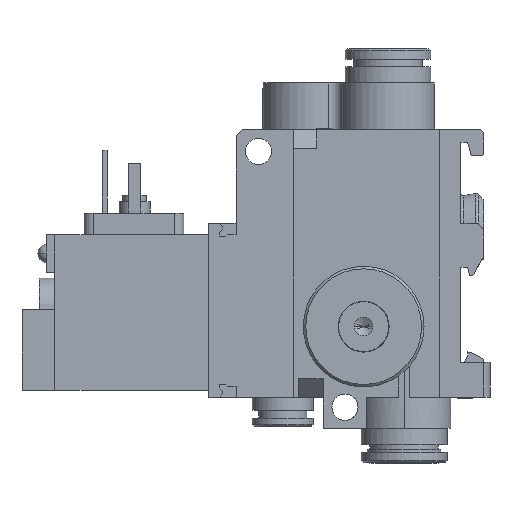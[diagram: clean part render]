
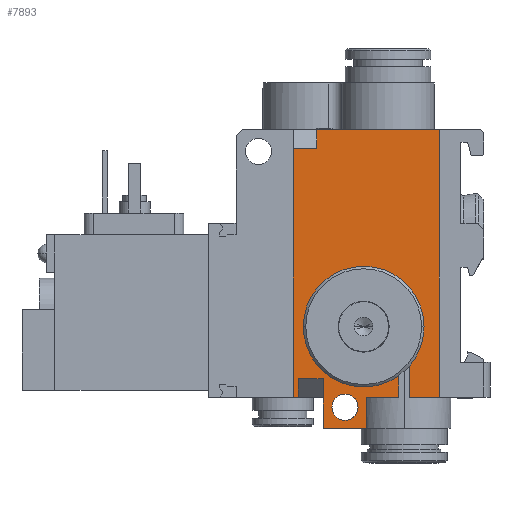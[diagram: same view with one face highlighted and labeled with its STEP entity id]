
A CAD part, left-side view. The second image highlights one B-rep face of the part: STEP entity #7893.
In plain terms, the highlighted planar face has unit normal (-1, 0, 0).
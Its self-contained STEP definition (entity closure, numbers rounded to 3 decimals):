
#661=DIRECTION('',(0.,-1.,0.));
#662=VECTOR('',#661,6.385);
#663=CARTESIAN_POINT('',(-9.946,-7.365,-21.5));
#664=LINE('',#663,#662);
#766=DIRECTION('',(0.,-1.,0.));
#767=VECTOR('',#766,5.135);
#768=CARTESIAN_POINT('',(-9.946,-0.5,-21.5));
#769=LINE('',#768,#767);
#901=DIRECTION('',(0.,-1.,0.));
#902=VECTOR('',#901,2.45);
#903=CARTESIAN_POINT('',(-9.946,12.95,-21.5));
#904=LINE('',#903,#902);
#933=CARTESIAN_POINT('',(-9.946,3.,-23.1));
#934=DIRECTION('',(1.,0.,0.));
#935=DIRECTION('',(0.,0.,-1.));
#936=AXIS2_PLACEMENT_3D('',#933,#934,#935);
#938=CARTESIAN_POINT('',(-9.946,3.,-23.1));
#939=DIRECTION('',(1.,0.,0.));
#940=DIRECTION('',(0.,0.,1.));
#941=AXIS2_PLACEMENT_3D('',#938,#939,#940);
#943=DIRECTION('',(0.,0.,-1.));
#944=VECTOR('',#943,3.);
#945=CARTESIAN_POINT('',(-9.946,7.5,21.5));
#946=LINE('',#945,#944);
#947=DIRECTION('',(0.,0.,-1.));
#948=VECTOR('',#947,5.);
#949=CARTESIAN_POINT('',(-9.946,-7.365,-16.5));
#950=LINE('',#949,#948);
#951=DIRECTION('',(0.,1.,0.));
#952=VECTOR('',#951,0.032);
#953=CARTESIAN_POINT('',(-9.946,-7.365,-16.5));
#954=LINE('',#953,#952);
#955=CARTESIAN_POINT('',(-9.946,0.,-10.15));
#956=DIRECTION('',(1.,0.,0.));
#957=DIRECTION('',(0.,-1.,0.));
#958=AXIS2_PLACEMENT_3D('',#955,#956,#957);
#960=CARTESIAN_POINT('',(-9.946,0.,-10.15));
#961=DIRECTION('',(1.,0.,0.));
#962=DIRECTION('',(0.,1.,0.));
#963=AXIS2_PLACEMENT_3D('',#960,#961,#962);
#965=CARTESIAN_POINT('',(-9.946,0.,-10.15));
#966=DIRECTION('',(1.,0.,0.));
#967=DIRECTION('',(0.,-0.581,-0.814));
#968=AXIS2_PLACEMENT_3D('',#965,#966,#967);
#970=DIRECTION('',(0.,0.,-1.));
#971=VECTOR('',#970,3.455);
#972=CARTESIAN_POINT('',(-9.946,-5.635,
-18.045));
#973=LINE('',#972,#971);
#974=DIRECTION('',(0.,0.,-1.));
#975=VECTOR('',#974,5.);
#976=CARTESIAN_POINT('',(-9.946,-0.5,-21.5));
#977=LINE('',#976,#975);
#978=DIRECTION('',(0.,1.,0.));
#979=VECTOR('',#978,4.);
#980=CARTESIAN_POINT('',(-9.946,6.5,-18.5));
#981=LINE('',#980,#979);
#982=DIRECTION('',(0.,0.,-1.));
#983=VECTOR('',#982,3.);
#984=CARTESIAN_POINT('',(-9.946,10.5,-18.5));
#985=LINE('',#984,#983);
#986=DIRECTION('',(0.,0.,1.));
#987=VECTOR('',#986,43.);
#988=CARTESIAN_POINT('',(-9.946,12.95,-21.5));
#989=LINE('',#988,#987);
#990=DIRECTION('',(0.,0.,-1.));
#991=VECTOR('',#990,3.);
#992=CARTESIAN_POINT('',(-9.946,11.5,21.5));
#993=LINE('',#992,#991);
#994=DIRECTION('',(0.,1.,0.));
#995=VECTOR('',#994,4.);
#996=CARTESIAN_POINT('',(-9.946,7.5,18.5));
#997=LINE('',#996,#995);
#2045=DIRECTION('',(0.,0.,1.));
#2046=VECTOR('',#2045,43.);
#2047=CARTESIAN_POINT('',(-9.946,-13.75,-21.5));
#2048=LINE('',#2047,#2046);
#2061=DIRECTION('',(0.,-1.,0.));
#2062=VECTOR('',#2061,1.45);
#2063=CARTESIAN_POINT('',(-9.946,12.95,21.5));
#2064=LINE('',#2063,#2062);
#2150=DIRECTION('',(0.,-1.,0.));
#2151=VECTOR('',#2150,21.25);
#2152=CARTESIAN_POINT('',(-9.946,7.5,21.5));
#2153=LINE('',#2152,#2151);
#3245=DIRECTION('',(0.,0.,-1.));
#3246=VECTOR('',#3245,8.);
#3247=CARTESIAN_POINT('',(-9.946,6.5,-18.5));
#3248=LINE('',#3247,#3246);
#3267=DIRECTION('',(0.,1.,0.));
#3268=VECTOR('',#3267,7.);
#3269=CARTESIAN_POINT('',(-9.946,-0.5,-26.5));
#3270=LINE('',#3269,#3268);
#5321=CARTESIAN_POINT('',(-9.946,12.95,-21.5));
#5323=VERTEX_POINT('',#5321);
#5324=CARTESIAN_POINT('',(-9.946,-13.75,-21.5));
#5326=VERTEX_POINT('',#5324);
#5351=CARTESIAN_POINT('',(-9.946,12.95,21.5));
#5353=VERTEX_POINT('',#5351);
#5354=CARTESIAN_POINT('',(-9.946,-13.75,21.5));
#5356=VERTEX_POINT('',#5354);
#5672=CARTESIAN_POINT('',(-9.946,6.5,-26.5));
#5674=VERTEX_POINT('',#5672);
#5682=CARTESIAN_POINT('',(-9.946,-0.5,-26.5));
#5683=VERTEX_POINT('',#5682);
#5684=CARTESIAN_POINT('',(-9.946,-5.635,-21.5));
#5686=VERTEX_POINT('',#5684);
#5693=CARTESIAN_POINT('',(-9.946,-0.5,-21.5));
#5695=VERTEX_POINT('',#5693);
#5696=CARTESIAN_POINT('',(-9.946,-7.365,-21.5));
#5697=VERTEX_POINT('',#5696);
#5716=CARTESIAN_POINT('',(-9.946,3.,-25.2));
#5717=CARTESIAN_POINT('',(-9.946,3.,-21.));
#5718=VERTEX_POINT('',#5716);
#5719=VERTEX_POINT('',#5717);
#5884=CARTESIAN_POINT('',(-9.946,9.7,-10.15));
#5885=CARTESIAN_POINT('',(-9.946,-9.7,-10.15));
#5886=VERTEX_POINT('',#5884);
#5887=VERTEX_POINT('',#5885);
#5888=CARTESIAN_POINT('',(-9.946,-7.333,-16.5));
#5889=VERTEX_POINT('',#5888);
#5971=CARTESIAN_POINT('',(-9.946,10.5,-21.5));
#5973=VERTEX_POINT('',#5971);
#5976=CARTESIAN_POINT('',(-9.946,10.5,-18.5));
#5977=VERTEX_POINT('',#5976);
#5978=CARTESIAN_POINT('',(-9.946,6.5,-18.5));
#5979=VERTEX_POINT('',#5978);
#5980=CARTESIAN_POINT('',(-9.946,7.5,21.5));
#5982=VERTEX_POINT('',#5980);
#5984=CARTESIAN_POINT('',(-9.946,11.5,21.5));
#5986=VERTEX_POINT('',#5984);
#5988=CARTESIAN_POINT('',(-9.946,7.5,18.5));
#5989=VERTEX_POINT('',#5988);
#5990=CARTESIAN_POINT('',(-9.946,11.5,18.5));
#5991=VERTEX_POINT('',#5990);
#5998=CARTESIAN_POINT('',(-9.946,-7.365,-16.5));
#5999=VERTEX_POINT('',#5998);
#6000=CARTESIAN_POINT('',(-9.946,-5.635,
-18.045));
#6001=VERTEX_POINT('',#6000);
#7841=CARTESIAN_POINT('',(-9.946,12.95,-21.5));
#7842=DIRECTION('',(-1.,0.,0.));
#7843=DIRECTION('',(0.,-1.,0.));
#7844=AXIS2_PLACEMENT_3D('',#7841,#7842,#7843);
#7845=PLANE('',#7844);
#7847=ORIENTED_EDGE('',*,*,#7846,.F.);
#7849=ORIENTED_EDGE('',*,*,#7848,.T.);
#7851=ORIENTED_EDGE('',*,*,#7850,.F.);
#7852=ORIENTED_EDGE('',*,*,#7680,.F.);
#7854=ORIENTED_EDGE('',*,*,#7853,.F.);
#7856=ORIENTED_EDGE('',*,*,#7855,.T.);
#7858=ORIENTED_EDGE('',*,*,#7857,.F.);
#7860=ORIENTED_EDGE('',*,*,#7859,.F.);
#7862=ORIENTED_EDGE('',*,*,#7861,.F.);
#7864=ORIENTED_EDGE('',*,*,#7863,.T.);
#7865=ORIENTED_EDGE('',*,*,#7768,.F.);
#7867=ORIENTED_EDGE('',*,*,#7866,.T.);
#7869=ORIENTED_EDGE('',*,*,#7868,.T.);
#7871=ORIENTED_EDGE('',*,*,#7870,.F.);
#7873=ORIENTED_EDGE('',*,*,#7872,.T.);
#7875=ORIENTED_EDGE('',*,*,#7874,.T.);
#7876=ORIENTED_EDGE('',*,*,#7830,.F.);
#7878=ORIENTED_EDGE('',*,*,#7877,.T.);
#7880=ORIENTED_EDGE('',*,*,#7879,.T.);
#7882=ORIENTED_EDGE('',*,*,#7881,.T.);
#7884=ORIENTED_EDGE('',*,*,#7883,.F.);
#7885=EDGE_LOOP('',(#7847,#7849,#7851,#7852,#7854,#7856,#7858,#7860,#7862,#7864,
#7865,#7867,#7869,#7871,#7873,#7875,#7876,#7878,#7880,#7882,#7884));
#7886=FACE_OUTER_BOUND('',#7885,.F.);
#7888=ORIENTED_EDGE('',*,*,#7887,.F.);
#7890=ORIENTED_EDGE('',*,*,#7889,.F.);
#7891=EDGE_LOOP('',(#7888,#7890));
#7892=FACE_BOUND('',#7891,.F.);
#7893=ADVANCED_FACE('',(#7886,#7892),#7845,.T.);
#937=CIRCLE('',#936,2.1);
#942=CIRCLE('',#941,2.1);
#959=CIRCLE('',#958,9.7);
#964=CIRCLE('',#963,9.7);
#969=CIRCLE('',#968,9.7);
#7680=EDGE_CURVE('',#5697,#5326,#664,.T.);
#7768=EDGE_CURVE('',#5695,#5686,#769,.T.);
#7830=EDGE_CURVE('',#5323,#5973,#904,.T.);
#7846=EDGE_CURVE('',#5982,#5989,#946,.T.);
#7848=EDGE_CURVE('',#5982,#5356,#2153,.T.);
#7850=EDGE_CURVE('',#5326,#5356,#2048,.T.);
#7853=EDGE_CURVE('',#5999,#5697,#950,.T.);
#7855=EDGE_CURVE('',#5999,#5889,#954,.T.);
#7857=EDGE_CURVE('',#5887,#5889,#959,.T.);
#7859=EDGE_CURVE('',#5886,#5887,#964,.T.);
#7861=EDGE_CURVE('',#6001,#5886,#969,.T.);
#7863=EDGE_CURVE('',#6001,#5686,#973,.T.);
#7866=EDGE_CURVE('',#5695,#5683,#977,.T.);
#7868=EDGE_CURVE('',#5683,#5674,#3270,.T.);
#7870=EDGE_CURVE('',#5979,#5674,#3248,.T.);
#7872=EDGE_CURVE('',#5979,#5977,#981,.T.);
#7874=EDGE_CURVE('',#5977,#5973,#985,.T.);
#7877=EDGE_CURVE('',#5323,#5353,#989,.T.);
#7879=EDGE_CURVE('',#5353,#5986,#2064,.T.);
#7881=EDGE_CURVE('',#5986,#5991,#993,.T.);
#7883=EDGE_CURVE('',#5989,#5991,#997,.T.);
#7887=EDGE_CURVE('',#5718,#5719,#937,.T.);
#7889=EDGE_CURVE('',#5719,#5718,#942,.T.);
